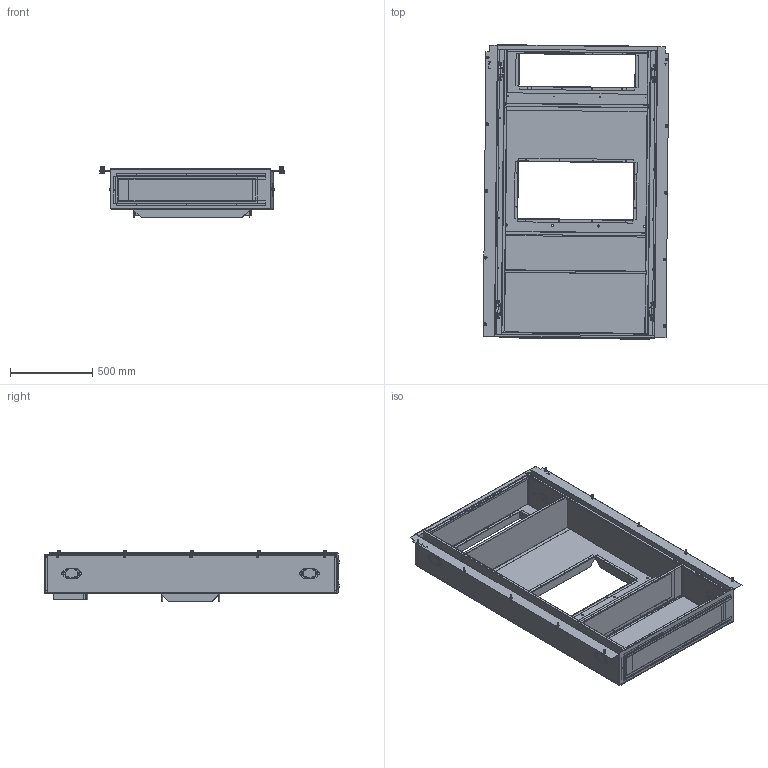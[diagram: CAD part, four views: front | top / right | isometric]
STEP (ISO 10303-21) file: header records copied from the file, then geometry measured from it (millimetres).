
FILE_DESCRIPTION (( 'STEP AP214' ), '1' );
FILE_NAME ('TFCF-53A-X.STEP', '2017-06-13T14:52:03', ( 'BMC' ), ( 'Bard Manufacturing Co., Inc.' ), 'SwSTEP 2.0', 'SolidWorks 2017', '' );
FILE_SCHEMA (( 'AUTOMOTIVE_DESIGN' ));
Length unit declared in the file: inch
Products named in the file (1): TFCF-53A-X
Bounding box: 1131.81 x 1795.34 x 308.38 mm (x, y, z)
Volume: 7447236.7 mm3; surface area: 10962377.7 mm2
Topology: 56 solids, 56 shells, 4836 faces, 12064 edges, 7296 vertices
Faces by surface type: plane 2017, bspline 1005, cylinder 876, cone 760, torus 162, sphere 16
Entity records: 262535 total; most frequent: CARTESIAN_POINT 90132, ORIENTED_EDGE 23648, DIRECTION 20360, EDGE_CURVE 11824, VERTEX_POINT 7296, AXIS2_PLACEMENT_3D 6882, VECTOR 6596, LINE 6596
